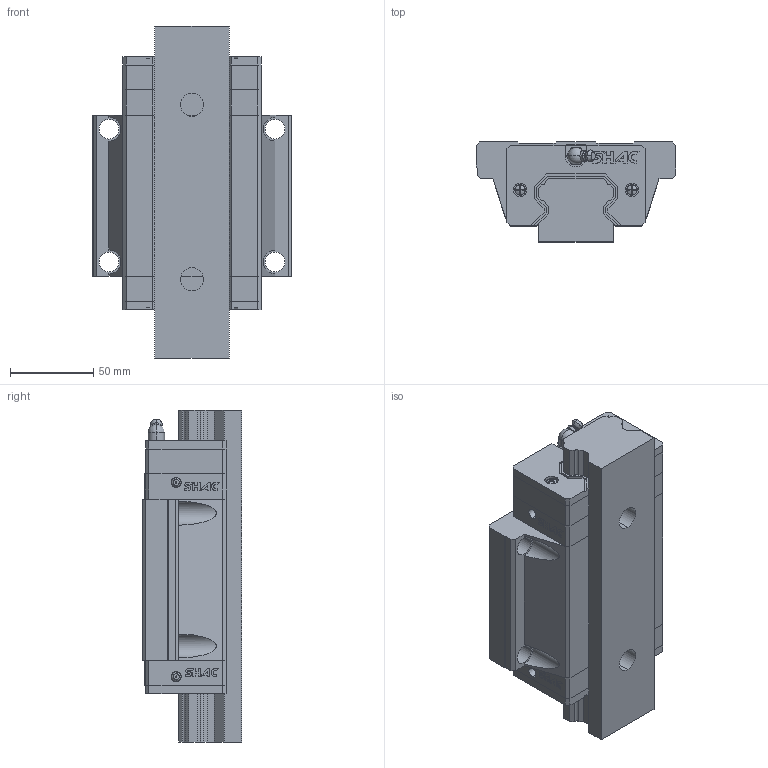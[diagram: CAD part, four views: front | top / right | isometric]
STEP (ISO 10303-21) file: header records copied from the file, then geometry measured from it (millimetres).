
FILE_DESCRIPTION (( 'STEP AP214' ), '1' );
FILE_NAME ('STP_GHW45CA_(E2)自润式_(R)上锁式_刮油片＋防尘条_1_200_200_GHW45CA_GHW45CA.step', '2020-06-27T09:31:03', ( 'IT Division' ), ( 'IT' ), 'SwSTEP 2.0', 'SolidWorks 2016', '' );
FILE_SCHEMA (( 'AUTOMOTIVE_DESIGN' ));
Length unit declared in the file: millimetre
Products named in the file (3): STP_GHW45CA_(E2)自润式_(R)上锁式_刮油片＋防尘条_1_200_200_GHW45CA_GHW45CA_1; STP_GHW45CA_(E2)自润式_(R)上锁式_刮油片＋防尘条_1_200_200_GHW45CA_GHW45CA; STP_GHW45CA_(E2)自润式_(R)上锁式_刮油片＋防尘条_1_200_200_GHW45CA_GHW45CA_2
Assembly tree (2 placements, depth 2):
  STP_GHW45CA_(E2)自润式_(R)上锁式_刮油片＋防尘条_1_200_200_GHW45CA_GHW45CA
    STP_GHW45CA_(E2)自润式_(R)上锁式_刮油片＋防尘条_1_200_200_GHW45CA_GHW45CA_1
    STP_GHW45CA_(E2)自润式_(R)上锁式_刮油片＋防尘条_1_200_200_GHW45CA_GHW45CA_2
Bounding box: 120 x 60 x 200 mm (x, y, z)
Volume: 832416 mm3; surface area: 137550.8 mm2
Topology: 8 solids, 8 shells, 840 faces, 2267 edges, 1494 vertices
Faces by surface type: plane 628, cylinder 154, torus 25, cone 23, sphere 10
Entity records: 30139 total; most frequent: CARTESIAN_POINT 4788, ORIENTED_EDGE 4526, DIRECTION 4366, EDGE_CURVE 2263, VECTOR 1770, LINE 1770, VERTEX_POINT 1492, AXIS2_PLACEMENT_3D 1298
